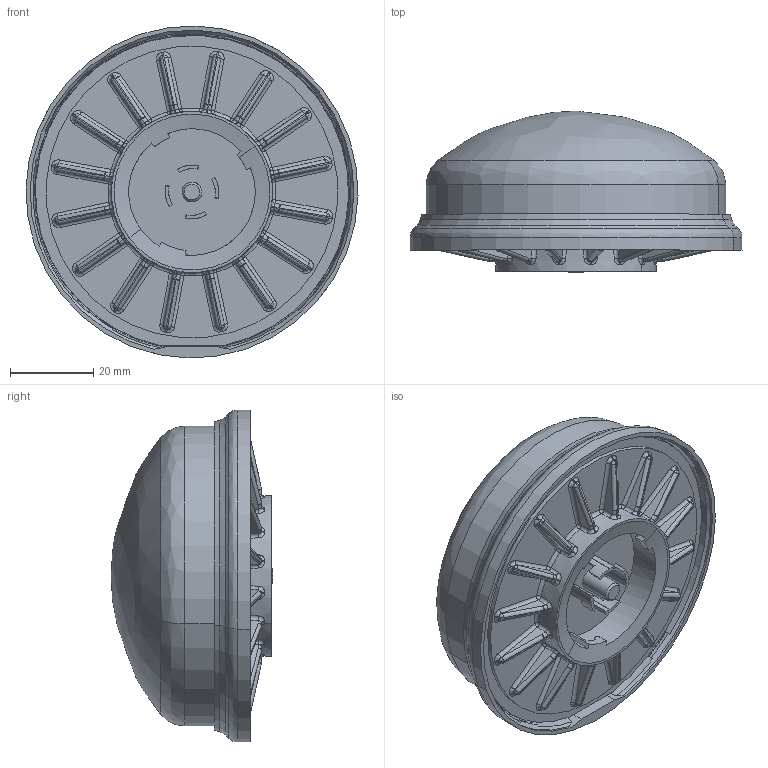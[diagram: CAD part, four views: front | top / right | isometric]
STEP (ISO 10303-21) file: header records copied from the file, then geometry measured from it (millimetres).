
FILE_DESCRIPTION (( 'STEP AP203' ), '1' );
FILE_NAME ('FA421HA8.STEP', '2024-05-02T04:22:55', ( '' ), ( '' ), 'SwSTEP 2.0', 'SolidWorks 2013', '' );
FILE_SCHEMA (( 'CONFIG_CONTROL_DESIGN' ));
Length unit declared in the file: millimetre
Products named in the file (1): FA421HA8
Bounding box: 79.68 x 38.85 x 79.68 mm (x, y, z)
Volume: 109677.8 mm3; surface area: 18877.6 mm2
Topology: 1 solids, 1 shells, 688 faces, 1640 edges, 900 vertices
Faces by surface type: cylinder 251, bspline 238, plane 183, cone 16
Entity records: 36891 total; most frequent: CARTESIAN_POINT 23513, ORIENTED_EDGE 3152, DIRECTION 1978, EDGE_CURVE 1576, VERTEX_POINT 900, LINE 722, VECTOR 722, EDGE_LOOP 698
